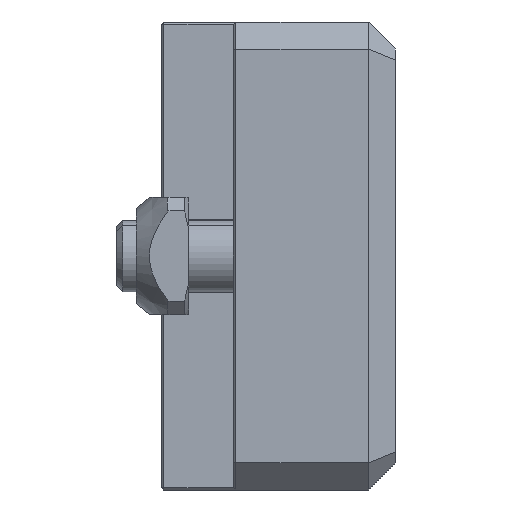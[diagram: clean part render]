
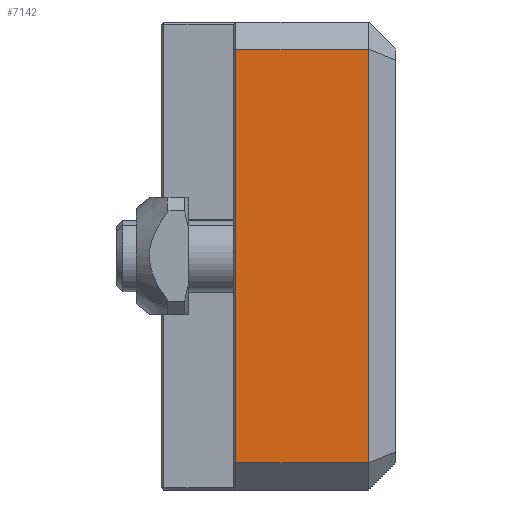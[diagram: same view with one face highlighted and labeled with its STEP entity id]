
A CAD part, left-side view. The second image highlights one B-rep face of the part: STEP entity #7142.
In plain terms, the highlighted planar face has unit normal (-1, 0, 0).
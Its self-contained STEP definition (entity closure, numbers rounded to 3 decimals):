
#361 = LINE ( 'NONE', #5587, #1102 ) ;
#476 = EDGE_LOOP ( 'NONE', ( #2810, #6220, #3589, #6929 ) ) ;
#558 = VECTOR ( 'NONE', #7857, 1000. ) ;
#749 = EDGE_CURVE ( 'NONE', #4454, #3832, #3987, .T. ) ;
#1102 = VECTOR ( 'NONE', #9567, 1000. ) ;
#1786 = CARTESIAN_POINT ( 'NONE',  ( -160., -13.8, 0. ) ) ;
#2334 = VERTEX_POINT ( 'NONE', #6856 ) ;
#2437 = DIRECTION ( 'NONE',  ( -1., 0., 0. ) ) ;
#2453 = CARTESIAN_POINT ( 'NONE',  ( -160., -6.55, 23. ) ) ;
#2810 = ORIENTED_EDGE ( 'NONE', *, *, #8298, .F. ) ;
#2925 = CARTESIAN_POINT ( 'NONE',  ( -160., 3.95, 23. ) ) ;
#3086 = VECTOR ( 'NONE', #7116, 1000. ) ;
#3095 = FACE_OUTER_BOUND ( 'NONE', #476, .T. ) ;
#3366 = AXIS2_PLACEMENT_3D ( 'NONE', #1786, #2437, #6990 ) ;
#3589 = ORIENTED_EDGE ( 'NONE', *, *, #749, .T. ) ;
#3738 = VECTOR ( 'NONE', #3849, 1000. ) ;
#3832 = VERTEX_POINT ( 'NONE', #8371 ) ;
#3849 = DIRECTION ( 'NONE',  ( 0., 0., 1. ) ) ;
#3987 = LINE ( 'NONE', #4132, #3086 ) ;
#4132 = CARTESIAN_POINT ( 'NONE',  ( -160., -10.8, 12.5 ) ) ;
#4167 = EDGE_CURVE ( 'NONE', #3832, #7437, #8506, .T. ) ;
#4454 = VERTEX_POINT ( 'NONE', #5188 ) ;
#5188 = CARTESIAN_POINT ( 'NONE',  ( -160., -10.8, -23. ) ) ;
#5587 = CARTESIAN_POINT ( 'NONE',  ( -160., -6.55, -23. ) ) ;
#6191 = PLANE ( 'NONE',  #3366 ) ;
#6220 = ORIENTED_EDGE ( 'NONE', *, *, #6538, .T. ) ;
#6538 = EDGE_CURVE ( 'NONE', #2334, #4454, #361, .T. ) ;
#6856 = CARTESIAN_POINT ( 'NONE',  ( -160., 3.95, -23. ) ) ;
#6929 = ORIENTED_EDGE ( 'NONE', *, *, #4167, .T. ) ;
#6990 = DIRECTION ( 'NONE',  ( 0., 0., 1. ) ) ;
#7116 = DIRECTION ( 'NONE',  ( 0., 0., 1. ) ) ;
#7142 = ADVANCED_FACE ( 'NONE', ( #3095 ), #6191, .T. ) ;
#7437 = VERTEX_POINT ( 'NONE', #2925 ) ;
#7831 = LINE ( 'NONE', #9429, #3738 ) ;
#7857 = DIRECTION ( 'NONE',  ( 0., 1., 0. ) ) ;
#8298 = EDGE_CURVE ( 'NONE', #2334, #7437, #7831, .T. ) ;
#8371 = CARTESIAN_POINT ( 'NONE',  ( -160., -10.8, 23. ) ) ;
#8506 = LINE ( 'NONE', #2453, #558 ) ;
#9429 = CARTESIAN_POINT ( 'NONE',  ( -160., 3.95, 0. ) ) ;
#9567 = DIRECTION ( 'NONE',  ( 0., -1., 0. ) ) ;
